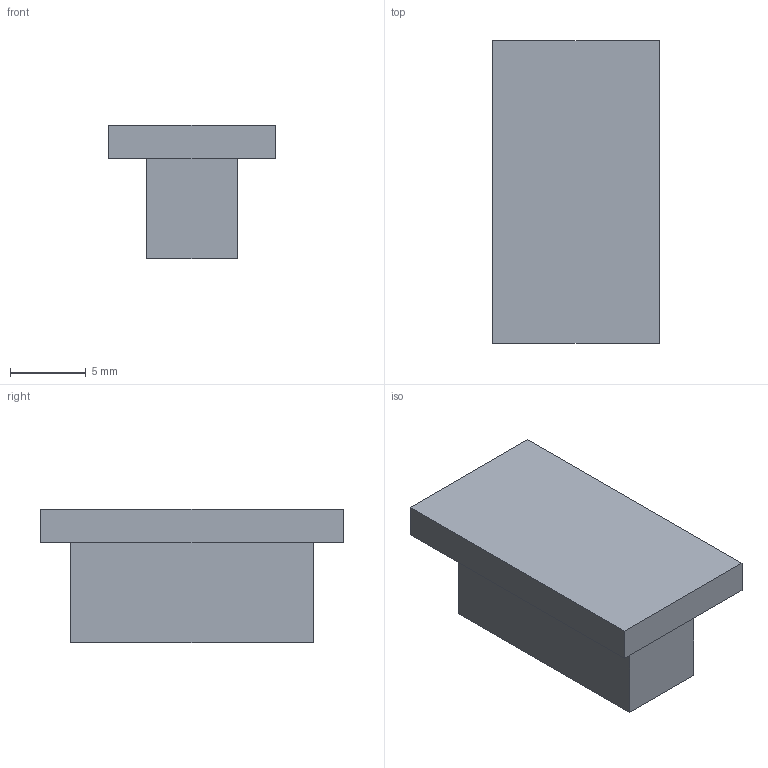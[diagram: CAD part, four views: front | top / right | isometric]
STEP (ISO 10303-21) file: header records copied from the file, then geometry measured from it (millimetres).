
FILE_DESCRIPTION(('Open CASCADE Model'),'2;1');
FILE_NAME('QF03_MIC_TAPE_STRAP_PULL_TEST_BASE','2026-09-15T14:22:29',( 'Author'),('Open CASCADE'),'Open CASCADE STEP processor 7.9', 'build123d','Unknown');
FILE_SCHEMA(('AUTOMOTIVE_DESIGN { 1 0 10303 214 1 1 1 1 }'));
Length unit declared in the file: millimetre
Products named in the file (1): QF03_MIC_TAPE_STRAP_PULL_TEST_BASE
Bounding box: 11 x 20 x 8.82 mm (x, y, z)
Volume: 1120 mm3; surface area: 867.9 mm2
Topology: 1 solids, 1 shells, 11 faces, 24 edges, 16 vertices
Faces by surface type: plane 11
Entity records: 620 total; most frequent: CARTESIAN_POINT 100, DIRECTION 96, LINE 72, VECTOR 72, ORIENTED_EDGE 48, PCURVE 48, DEFINITIONAL_REPRESENTATION 48, EDGE_CURVE 24
